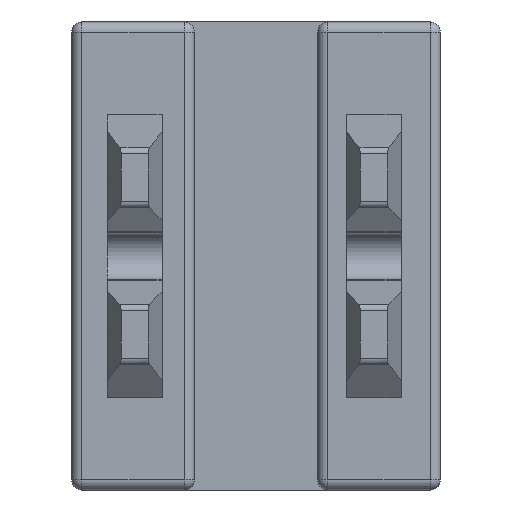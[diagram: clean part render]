
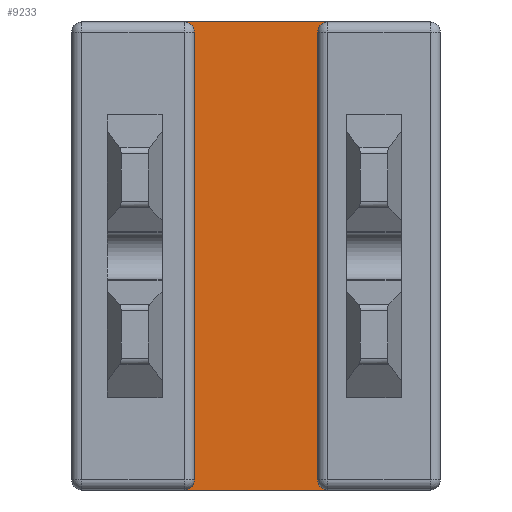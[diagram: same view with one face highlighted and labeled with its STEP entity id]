
A CAD part, front view. The second image highlights one B-rep face of the part: STEP entity #9233.
In plain terms, the highlighted planar face has unit normal (0, -1, 0).
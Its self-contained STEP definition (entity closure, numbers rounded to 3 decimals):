
#76 = DIRECTION ( 'NONE',  ( 0., 1., 0. ) ) ;
#161 = ORIENTED_EDGE ( 'NONE', *, *, #2584, .T. ) ;
#179 = DIRECTION ( 'NONE',  ( 1., 0., 0. ) ) ;
#383 = CARTESIAN_POINT ( 'NONE',  ( -2.1, -6.5, -13.7 ) ) ;
#871 = CIRCLE ( 'NONE', #2580, 0.3 ) ;
#1023 = CARTESIAN_POINT ( 'NONE',  ( 2.1, -6.5, -13.4 ) ) ;
#1050 = ORIENTED_EDGE ( 'NONE', *, *, #8238, .T. ) ;
#1593 = DIRECTION ( 'NONE',  ( 1., 0., 0. ) ) ;
#1907 = VERTEX_POINT ( 'NONE', #7910 ) ;
#2083 = VERTEX_POINT ( 'NONE', #4289 ) ;
#2451 = AXIS2_PLACEMENT_3D ( 'NONE', #5806, #76, #179 ) ;
#2580 = AXIS2_PLACEMENT_3D ( 'NONE', #2768, #3935, #6028 ) ;
#2584 = EDGE_CURVE ( 'NONE', #11159, #2083, #9559, .T. ) ;
#2734 = VERTEX_POINT ( 'NONE', #9479 ) ;
#2768 = CARTESIAN_POINT ( 'NONE',  ( -2.1, -6.5, -13.4 ) ) ;
#2773 = CARTESIAN_POINT ( 'NONE',  ( 2.1, -6.5, 0. ) ) ;
#2953 = DIRECTION ( 'NONE',  ( 1., 0., 0. ) ) ;
#3180 = EDGE_CURVE ( 'NONE', #4233, #1907, #14212, .T. ) ;
#3203 = ORIENTED_EDGE ( 'NONE', *, *, #7476, .F. ) ;
#3709 = PLANE ( 'NONE',  #5761 ) ;
#3935 = DIRECTION ( 'NONE',  ( 0., 1., 0. ) ) ;
#4039 = DIRECTION ( 'NONE',  ( 0., 0., 1. ) ) ;
#4092 = CARTESIAN_POINT ( 'NONE',  ( -2.1, -6.5, 0. ) ) ;
#4139 = EDGE_CURVE ( 'NONE', #6773, #5033, #12560, .T. ) ;
#4233 = VERTEX_POINT ( 'NONE', #383 ) ;
#4289 = CARTESIAN_POINT ( 'NONE',  ( -1.8, -6.5, -0.3 ) ) ;
#4394 = VECTOR ( 'NONE', #14032, 1000. ) ;
#4429 = VERTEX_POINT ( 'NONE', #8668 ) ;
#4443 = CARTESIAN_POINT ( 'NONE',  ( -1.8, -6.5, -13.7 ) ) ;
#4573 = ORIENTED_EDGE ( 'NONE', *, *, #4139, .T. ) ;
#4703 = DIRECTION ( 'NONE',  ( 0., -1., 0. ) ) ;
#4869 = LINE ( 'NONE', #4443, #5933 ) ;
#5033 = VERTEX_POINT ( 'NONE', #2773 ) ;
#5179 = AXIS2_PLACEMENT_3D ( 'NONE', #1023, #6771, #2953 ) ;
#5317 = VECTOR ( 'NONE', #4039, 1000. ) ;
#5761 = AXIS2_PLACEMENT_3D ( 'NONE', #7015, #4703, #5793 ) ;
#5793 = DIRECTION ( 'NONE',  ( 1., 0., 0. ) ) ;
#5806 = CARTESIAN_POINT ( 'NONE',  ( 2.1, -6.5, -0.3 ) ) ;
#5933 = VECTOR ( 'NONE', #11059, 1000. ) ;
#6020 = DIRECTION ( 'NONE',  ( 1., 0., 0. ) ) ;
#6028 = DIRECTION ( 'NONE',  ( 1., 0., 0. ) ) ;
#6771 = DIRECTION ( 'NONE',  ( 0., 1., 0. ) ) ;
#6773 = VERTEX_POINT ( 'NONE', #7933 ) ;
#6825 = ORIENTED_EDGE ( 'NONE', *, *, #8909, .T. ) ;
#7015 = CARTESIAN_POINT ( 'NONE',  ( 1.8, -6.5, -13.7 ) ) ;
#7119 = CARTESIAN_POINT ( 'NONE',  ( 1.8, -6.5, -13.7 ) ) ;
#7476 = EDGE_CURVE ( 'NONE', #2734, #2083, #4869, .T. ) ;
#7910 = CARTESIAN_POINT ( 'NONE',  ( 2.1, -6.5, -13.7 ) ) ;
#7933 = CARTESIAN_POINT ( 'NONE',  ( 1.8, -6.5, -0.3 ) ) ;
#8066 = ORIENTED_EDGE ( 'NONE', *, *, #3180, .T. ) ;
#8238 = EDGE_CURVE ( 'NONE', #1907, #4429, #9639, .T. ) ;
#8668 = CARTESIAN_POINT ( 'NONE',  ( 1.8, -6.5, -13.4 ) ) ;
#8909 = EDGE_CURVE ( 'NONE', #2734, #4233, #871, .T. ) ;
#9233 = ADVANCED_FACE ( 'NONE', ( #9438 ), #3709, .T. ) ;
#9285 = CARTESIAN_POINT ( 'NONE',  ( -2.1, -6.5, -0.3 ) ) ;
#9438 = FACE_OUTER_BOUND ( 'NONE', #10495, .T. ) ;
#9479 = CARTESIAN_POINT ( 'NONE',  ( -1.8, -6.5, -13.4 ) ) ;
#9540 = CARTESIAN_POINT ( 'NONE',  ( 1.8, -6.5, -13.7 ) ) ;
#9559 = CIRCLE ( 'NONE', #13538, 0.3 ) ;
#9639 = CIRCLE ( 'NONE', #5179, 0.3 ) ;
#10495 = EDGE_LOOP ( 'NONE', ( #12683, #161, #3203, #6825, #8066, #1050, #11501, #4573 ) ) ;
#10520 = CARTESIAN_POINT ( 'NONE',  ( 1.8, -6.5, 0. ) ) ;
#10810 = VECTOR ( 'NONE', #1593, 1000. ) ;
#11059 = DIRECTION ( 'NONE',  ( 0., 0., 1. ) ) ;
#11159 = VERTEX_POINT ( 'NONE', #4092 ) ;
#11501 = ORIENTED_EDGE ( 'NONE', *, *, #13786, .T. ) ;
#11686 = EDGE_CURVE ( 'NONE', #11159, #5033, #14394, .T. ) ;
#11738 = LINE ( 'NONE', #9540, #5317 ) ;
#12560 = CIRCLE ( 'NONE', #2451, 0.3 ) ;
#12683 = ORIENTED_EDGE ( 'NONE', *, *, #11686, .F. ) ;
#13538 = AXIS2_PLACEMENT_3D ( 'NONE', #9285, #13845, #6020 ) ;
#13786 = EDGE_CURVE ( 'NONE', #4429, #6773, #11738, .T. ) ;
#13845 = DIRECTION ( 'NONE',  ( 0., 1., 0. ) ) ;
#14032 = DIRECTION ( 'NONE',  ( 1., 0., 0. ) ) ;
#14212 = LINE ( 'NONE', #7119, #4394 ) ;
#14394 = LINE ( 'NONE', #10520, #10810 ) ;
